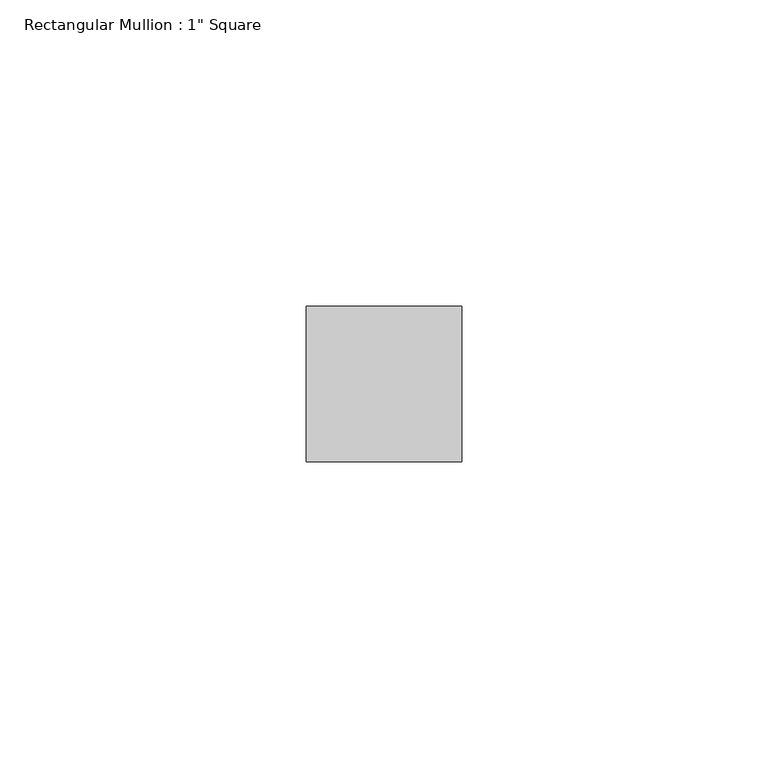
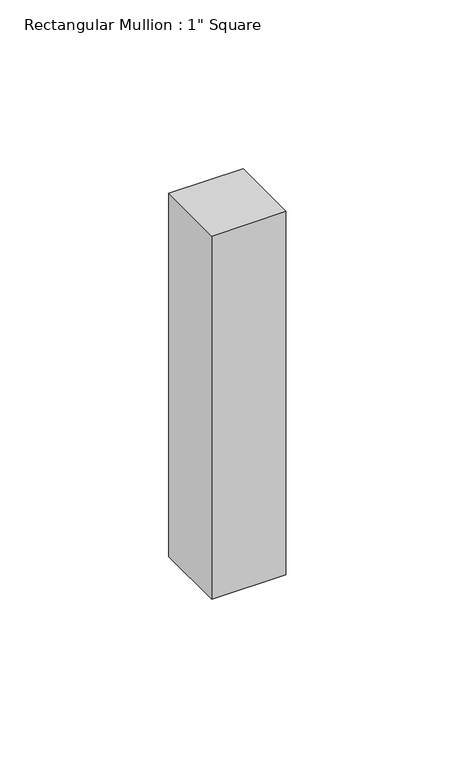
"""IFC4 building model written with IfcOpenShell, lengths in millimetres: member geometry."""

from ifc_helpers import new_model, si_unit, frame, origin, place, context, project, spatial, polyline, outline, extrude, source, transform, mapped, element, save


def member_1afcac62(model_context):
    return source(origin(), model_context, "Body", "SweptSolid", [
        extrude(outline(polyline([(12.7, 12.7), (12.7, -12.7), (-12.7, -12.7), (-12.7, 12.7), (12.7, 12.7)])), frame((0.0, 0.0, -131.2943986), z_axis=(0.0, 0.0, 1.0), x_axis=(1.0, 0.0, 0.0)), (0.0, 0.0, 1.0), 131.2943986),
    ])


if __name__ == "__main__":
    model = new_model("IFC4")
    model_context = context("Model", 3, world=origin())
    ifc_project = project(units=[si_unit("LENGTHUNIT", "METRE", prefix="MILLI")], contexts=[model_context])
    site = spatial("IfcSite", under=ifc_project)
    building = spatial("IfcBuilding", under=site)
    placement = place(None, origin())
    member_shape = member_1afcac62(model_context)
    element("IfcMember", 1, ObjectType="Rectangular Mullion : 1\" Square", at=placement, inside=building, context=model_context, shape_type="MappedRepresentation", body=[
        mapped(member_shape, transform((0.0, 0.0, 0.0), x_axis=(1.0, 0.0, 0.0), y_axis=(0.0, 1.0, 0.0), z_axis=(0.0, 0.0, 1.0))),
    ])
    save(model, "model.ifc")
